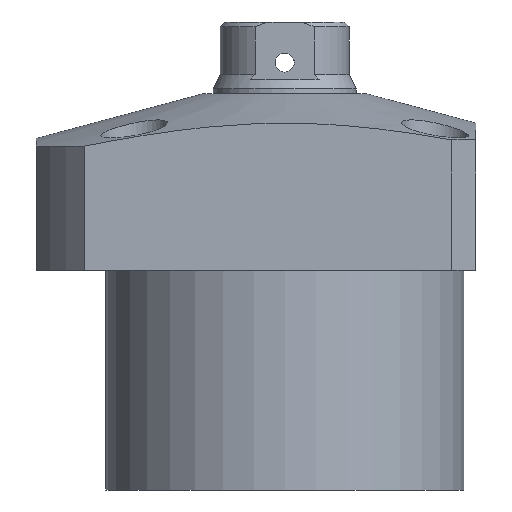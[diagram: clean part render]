
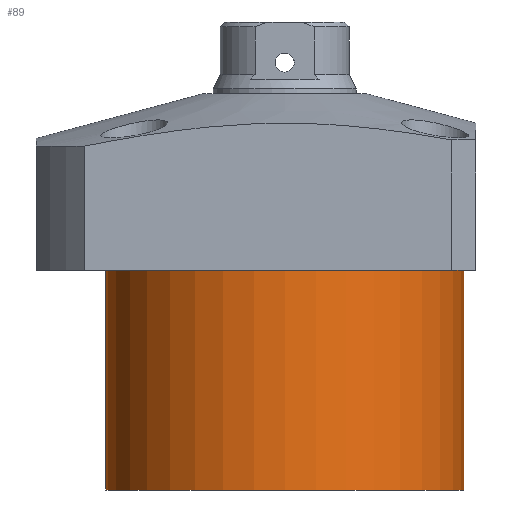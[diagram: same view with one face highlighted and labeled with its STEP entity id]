
A CAD part, front view. The second image highlights one B-rep face of the part: STEP entity #89.
In plain terms, the highlighted cylindrical face has radius 37.5 mm (diameter 75 mm), a partial arc.
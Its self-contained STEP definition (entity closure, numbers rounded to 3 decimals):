
#89 = ADVANCED_FACE ( 'NONE', ( #1593 ), #2689, .T. ) ;
#110 = CARTESIAN_POINT ( 'NONE',  ( 37.5, 0., -64.5 ) ) ;
#128 = CARTESIAN_POINT ( 'NONE',  ( -37.5, 0., -64.5 ) ) ;
#150 = EDGE_CURVE ( 'NONE', #2553, #901, #1934, .T. ) ;
#199 = EDGE_CURVE ( 'NONE', #578, #2486, #1071, .T. ) ;
#499 = VECTOR ( 'NONE', #589, 1000. ) ;
#538 = CARTESIAN_POINT ( 'NONE',  ( 0., 0., -64.5 ) ) ;
#578 = VERTEX_POINT ( 'NONE', #110 ) ;
#589 = DIRECTION ( 'NONE',  ( 0., 0., 1. ) ) ;
#628 = CARTESIAN_POINT ( 'NONE',  ( 37.5, 0., -64.5 ) ) ;
#670 = DIRECTION ( 'NONE',  ( 1., 0., 0. ) ) ;
#758 = CARTESIAN_POINT ( 'NONE',  ( -37.5, 0., -64.5 ) ) ;
#817 = ORIENTED_EDGE ( 'NONE', *, *, #199, .T. ) ;
#901 = VERTEX_POINT ( 'NONE', #2786 ) ;
#973 = DIRECTION ( 'NONE',  ( 0., 0., -1. ) ) ;
#1002 = EDGE_LOOP ( 'NONE', ( #2657, #2499, #817, #1003 ) ) ;
#1003 = ORIENTED_EDGE ( 'NONE', *, *, #2263, .T. ) ;
#1038 = CARTESIAN_POINT ( 'NONE',  ( 0., 0., -64.5 ) ) ;
#1071 = LINE ( 'NONE', #628, #2727 ) ;
#1593 = FACE_OUTER_BOUND ( 'NONE', #1002, .T. ) ;
#1698 = DIRECTION ( 'NONE',  ( -1., 0., 0. ) ) ;
#1703 = DIRECTION ( 'NONE',  ( 0., 0., 1. ) ) ;
#1748 = DIRECTION ( 'NONE',  ( 0., 0., -1. ) ) ;
#1934 = LINE ( 'NONE', #128, #499 ) ;
#1986 = AXIS2_PLACEMENT_3D ( 'NONE', #2573, #1748, #670 ) ;
#2017 = EDGE_CURVE ( 'NONE', #578, #2553, #2464, .T. ) ;
#2135 = CARTESIAN_POINT ( 'NONE',  ( 37.5, 0., -18.5 ) ) ;
#2161 = CIRCLE ( 'NONE', #1986, 37.5 ) ;
#2263 = EDGE_CURVE ( 'NONE', #2486, #901, #2161, .T. ) ;
#2299 = DIRECTION ( 'NONE',  ( 1., 0., 0. ) ) ;
#2463 = AXIS2_PLACEMENT_3D ( 'NONE', #538, #973, #1698 ) ;
#2464 = CIRCLE ( 'NONE', #2463, 37.5 ) ;
#2465 = AXIS2_PLACEMENT_3D ( 'NONE', #1038, #2527, #2299 ) ;
#2486 = VERTEX_POINT ( 'NONE', #2135 ) ;
#2499 = ORIENTED_EDGE ( 'NONE', *, *, #2017, .F. ) ;
#2527 = DIRECTION ( 'NONE',  ( 0., 0., 1. ) ) ;
#2553 = VERTEX_POINT ( 'NONE', #758 ) ;
#2573 = CARTESIAN_POINT ( 'NONE',  ( 0., 0., -18.5 ) ) ;
#2657 = ORIENTED_EDGE ( 'NONE', *, *, #150, .F. ) ;
#2689 = CYLINDRICAL_SURFACE ( 'NONE', #2465, 37.5 ) ;
#2727 = VECTOR ( 'NONE', #1703, 1000. ) ;
#2786 = CARTESIAN_POINT ( 'NONE',  ( -37.5, 0., -18.5 ) ) ;
